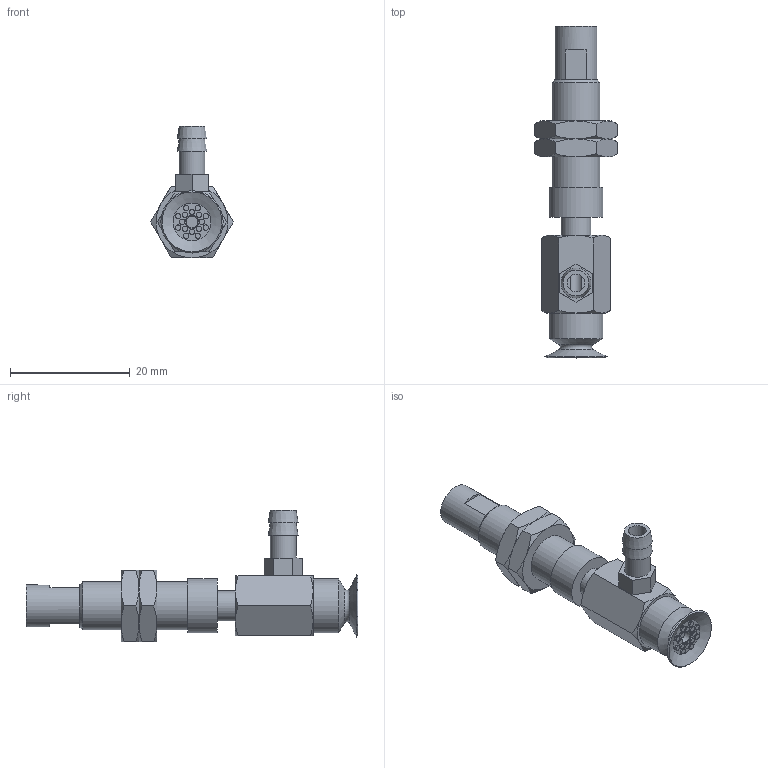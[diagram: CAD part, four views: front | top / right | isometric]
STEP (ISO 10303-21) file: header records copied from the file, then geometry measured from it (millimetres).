
FILE_DESCRIPTION(('STEP AP203'),'1');
FILE_NAME('-T.stp','2025-02-11T05:57:02',(' '),(' '),'Spatial InterOp 3D',' ',' ');
FILE_SCHEMA(('CONFIG_CONTROL_DESIGN'));
Length unit declared in the file: millimetre
Products named in the file (7): BNABPAYS-10A-3-※-T; NAPAYS-10A-3--M; NAPAYS-10A-3--F; Nut-10A-S; CONNECTOR-10A-3-PA; BPAG-10A-※_3D; T
Assembly tree (7 placements, depth 2):
  BNABPAYS-10A-3-※-T
    NAPAYS-10A-3--M
    NAPAYS-10A-3--F
    Nut-10A-S  x2
    CONNECTOR-10A-3-PA
    BPAG-10A-※_3D
    T
Bounding box: 13.86 x 55.5 x 22 mm (x, y, z)
Volume: 3556.4 mm3; surface area: 4489.1 mm2
Topology: 7 solids, 7 shells, 179 faces, 353 edges, 217 vertices
Faces by surface type: plane 79, cone 54, cylinder 36, torus 10
Full cylindrical faces by diameter (mm): 0.9 x16, 2 x2, 3 x1, 4 x2, 4.134 x2, 4.3 x1, 5 x4, 6 x2, 7 x1, 7.188 x2, 8 x1, 9 x2
Entity records: 4230 total; most frequent: CARTESIAN_POINT 932, DIRECTION 638, ORIENTED_EDGE 476, AXIS2_PLACEMENT_3D 290, EDGE_LOOP 256, EDGE_CURVE 238, FACE_OUTER_BOUND 201, VERTEX_POINT 182
